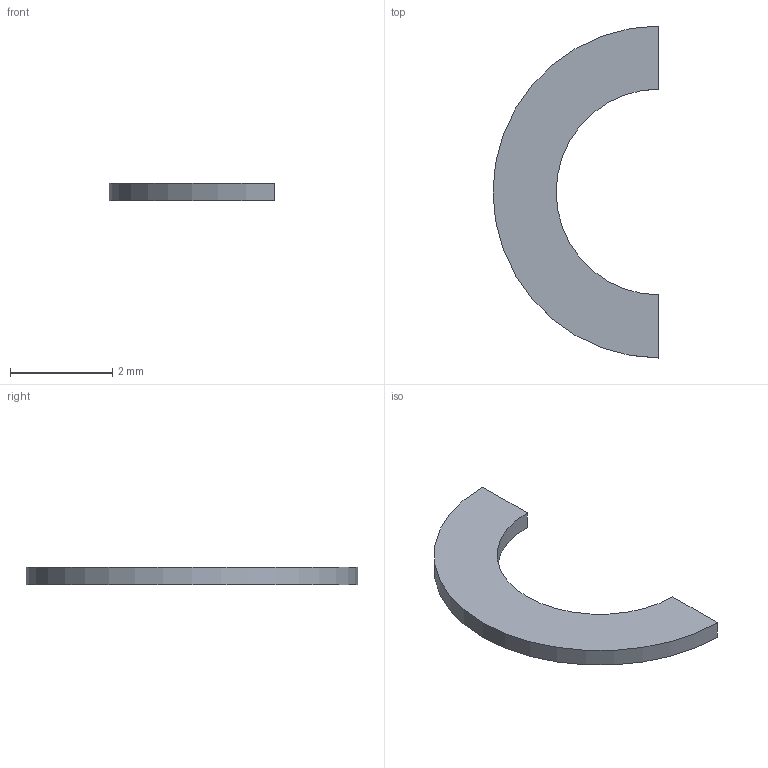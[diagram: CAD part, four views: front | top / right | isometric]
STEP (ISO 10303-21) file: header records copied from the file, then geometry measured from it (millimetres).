
FILE_DESCRIPTION(('Open CASCADE Model'),'2;1');
FILE_NAME('Open CASCADE Shape Model','2026-09-24T17:42:53',('Author'),( 'Open CASCADE'),'Open CASCADE STEP processor 7.8','Open CASCADE 7.8' ,'Unknown');
FILE_SCHEMA(('AUTOMOTIVE_DESIGN { 1 0 10303 214 1 1 1 1 }'));
Length unit declared in the file: millimetre
Products named in the file (1): Open CASCADE STEP translator 7.8 32
Bounding box: 3.25 x 6.5 x 0.35 mm (x, y, z)
Volume: 3.6 mm3; surface area: 27.1 mm2
Topology: 1 solids, 1 shells, 6 faces, 12 edges, 8 vertices
Faces by surface type: plane 4, cylinder 2
Entity records: 310 total; most frequent: CARTESIAN_POINT 67, DIRECTION 38, ORIENTED_EDGE 24, PCURVE 24, DEFINITIONAL_REPRESENTATION 24, B_SPLINE_CURVE_WITH_KNOTS 16, EDGE_CURVE 12, SURFACE_CURVE 12
